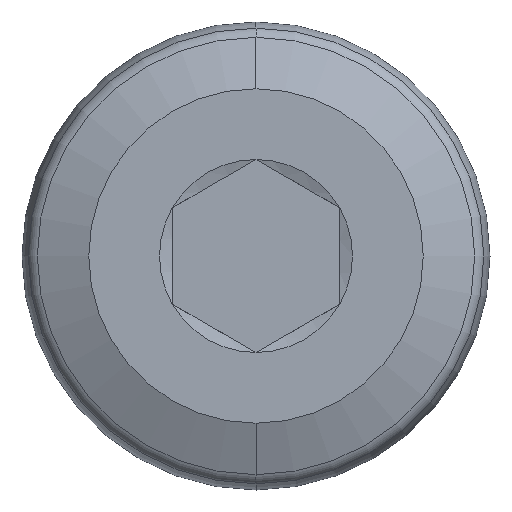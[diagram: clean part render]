
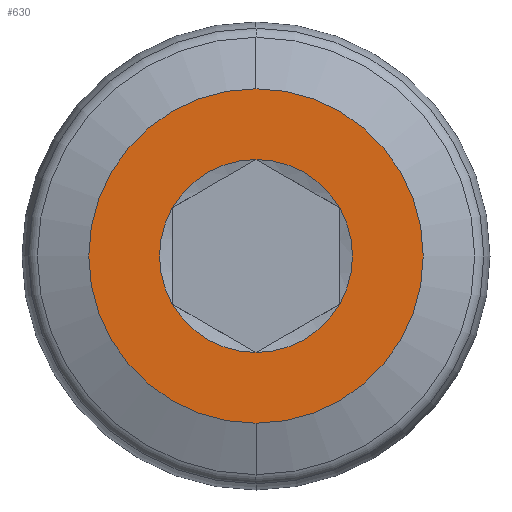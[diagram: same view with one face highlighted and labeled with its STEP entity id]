
A CAD part, left-side view. The second image highlights one B-rep face of the part: STEP entity #630.
In plain terms, the highlighted planar face has unit normal (-1, 0, 0).
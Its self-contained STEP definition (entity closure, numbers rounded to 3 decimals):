
#1 = ORIENTED_EDGE ( 'NONE', *, *, #66, .T. ) ;
#4 = DIRECTION ( 'NONE',  ( 0., 0., -1. ) ) ;
#16 = DIRECTION ( 'NONE',  ( 0., 0., -1. ) ) ;
#20 = DIRECTION ( 'NONE',  ( 1., 0., 0. ) ) ;
#23 = PLANE ( 'NONE',  #430 ) ;
#28 = CARTESIAN_POINT ( 'NONE',  ( 0., 0., 0. ) ) ;
#29 = EDGE_CURVE ( 'NONE', #316, #368, #556, .T. ) ;
#36 = DIRECTION ( 'NONE',  ( 1., 0., 0. ) ) ;
#58 = CARTESIAN_POINT ( 'NONE',  ( 0., 0., -5. ) ) ;
#61 = CARTESIAN_POINT ( 'NONE',  ( 0., 0., 0. ) ) ;
#62 = EDGE_LOOP ( 'NONE', ( #405, #1, #513, #807, #497, #576 ) ) ;
#66 = EDGE_CURVE ( 'NONE', #702, #380, #441, .T. ) ;
#68 = CIRCLE ( 'NONE', #162, 2.887 ) ;
#78 = CARTESIAN_POINT ( 'NONE',  ( 0., 0., 0. ) ) ;
#81 = CARTESIAN_POINT ( 'NONE',  ( 0., 2.5, -1.443 ) ) ;
#97 = CARTESIAN_POINT ( 'NONE',  ( 0., -2.5, -1.443 ) ) ;
#111 = DIRECTION ( 'NONE',  ( 1., 0., 0. ) ) ;
#129 = AXIS2_PLACEMENT_3D ( 'NONE', #579, #20, #16 ) ;
#151 = CARTESIAN_POINT ( 'NONE',  ( 0., 0., 0. ) ) ;
#154 = CARTESIAN_POINT ( 'NONE',  ( 0., 5., 0. ) ) ;
#162 = AXIS2_PLACEMENT_3D ( 'NONE', #151, #276, #592 ) ;
#169 = CARTESIAN_POINT ( 'NONE',  ( 0., 0., 2.887 ) ) ;
#173 = CARTESIAN_POINT ( 'NONE',  ( 0., 0., 0. ) ) ;
#174 = CIRCLE ( 'NONE', #641, 2.887 ) ;
#193 = EDGE_LOOP ( 'NONE', ( #285, #624 ) ) ;
#205 = CARTESIAN_POINT ( 'NONE',  ( 0., 2.5, 1.443 ) ) ;
#245 = DIRECTION ( 'NONE',  ( 0., 0., -1. ) ) ;
#246 = VERTEX_POINT ( 'NONE', #97 ) ;
#276 = DIRECTION ( 'NONE',  ( 1., 0., 0. ) ) ;
#285 = ORIENTED_EDGE ( 'NONE', *, *, #391, .F. ) ;
#287 = AXIS2_PLACEMENT_3D ( 'NONE', #78, #512, #389 ) ;
#302 = CIRCLE ( 'NONE', #545, 2.887 ) ;
#306 = CARTESIAN_POINT ( 'NONE',  ( 0., 0., 0. ) ) ;
#316 = VERTEX_POINT ( 'NONE', #761 ) ;
#336 = DIRECTION ( 'NONE',  ( -1., 0., 0. ) ) ;
#340 = EDGE_CURVE ( 'NONE', #610, #422, #428, .T. ) ;
#352 = DIRECTION ( 'NONE',  ( 0., 0., -1. ) ) ;
#354 = EDGE_CURVE ( 'NONE', #801, #610, #174, .T. ) ;
#368 = VERTEX_POINT ( 'NONE', #58 ) ;
#379 = DIRECTION ( 'NONE',  ( 0., 0., -1. ) ) ;
#380 = VERTEX_POINT ( 'NONE', #633 ) ;
#388 = DIRECTION ( 'NONE',  ( 1., 0., 0. ) ) ;
#389 = DIRECTION ( 'NONE',  ( 0., 0., -1. ) ) ;
#391 = EDGE_CURVE ( 'NONE', #368, #316, #802, .T. ) ;
#405 = ORIENTED_EDGE ( 'NONE', *, *, #506, .T. ) ;
#422 = VERTEX_POINT ( 'NONE', #205 ) ;
#428 = CIRCLE ( 'NONE', #491, 2.887 ) ;
#430 = AXIS2_PLACEMENT_3D ( 'NONE', #154, #336, #476 ) ;
#434 = DIRECTION ( 'NONE',  ( 1., 0., 0. ) ) ;
#441 = CIRCLE ( 'NONE', #129, 2.887 ) ;
#446 = DIRECTION ( 'NONE',  ( 1., 0., 0. ) ) ;
#476 = DIRECTION ( 'NONE',  ( 0., 0., 1. ) ) ;
#491 = AXIS2_PLACEMENT_3D ( 'NONE', #306, #111, #245 ) ;
#497 = ORIENTED_EDGE ( 'NONE', *, *, #354, .T. ) ;
#506 = EDGE_CURVE ( 'NONE', #422, #702, #302, .T. ) ;
#512 = DIRECTION ( 'NONE',  ( 1., 0., 0. ) ) ;
#513 = ORIENTED_EDGE ( 'NONE', *, *, #646, .T. ) ;
#545 = AXIS2_PLACEMENT_3D ( 'NONE', #770, #388, #4 ) ;
#556 = CIRCLE ( 'NONE', #287, 5. ) ;
#576 = ORIENTED_EDGE ( 'NONE', *, *, #340, .T. ) ;
#579 = CARTESIAN_POINT ( 'NONE',  ( 0., 0., 0. ) ) ;
#592 = DIRECTION ( 'NONE',  ( 0., 0., -1. ) ) ;
#610 = VERTEX_POINT ( 'NONE', #81 ) ;
#621 = EDGE_CURVE ( 'NONE', #246, #801, #789, .T. ) ;
#624 = ORIENTED_EDGE ( 'NONE', *, *, #29, .F. ) ;
#627 = AXIS2_PLACEMENT_3D ( 'NONE', #28, #36, #352 ) ;
#630 = ADVANCED_FACE ( 'NONE', ( #667, #792 ), #23, .T. ) ;
#633 = CARTESIAN_POINT ( 'NONE',  ( 0., -2.5, 1.443 ) ) ;
#641 = AXIS2_PLACEMENT_3D ( 'NONE', #173, #446, #379 ) ;
#646 = EDGE_CURVE ( 'NONE', #380, #246, #68, .T. ) ;
#667 = FACE_BOUND ( 'NONE', #62, .T. ) ;
#688 = DIRECTION ( 'NONE',  ( 0., 0., -1. ) ) ;
#702 = VERTEX_POINT ( 'NONE', #169 ) ;
#709 = AXIS2_PLACEMENT_3D ( 'NONE', #61, #434, #688 ) ;
#760 = CARTESIAN_POINT ( 'NONE',  ( 0., 0., -2.887 ) ) ;
#761 = CARTESIAN_POINT ( 'NONE',  ( 0., 0., 5. ) ) ;
#770 = CARTESIAN_POINT ( 'NONE',  ( 0., 0., 0. ) ) ;
#789 = CIRCLE ( 'NONE', #627, 2.887 ) ;
#792 = FACE_OUTER_BOUND ( 'NONE', #193, .T. ) ;
#801 = VERTEX_POINT ( 'NONE', #760 ) ;
#802 = CIRCLE ( 'NONE', #709, 5. ) ;
#807 = ORIENTED_EDGE ( 'NONE', *, *, #621, .T. ) ;
